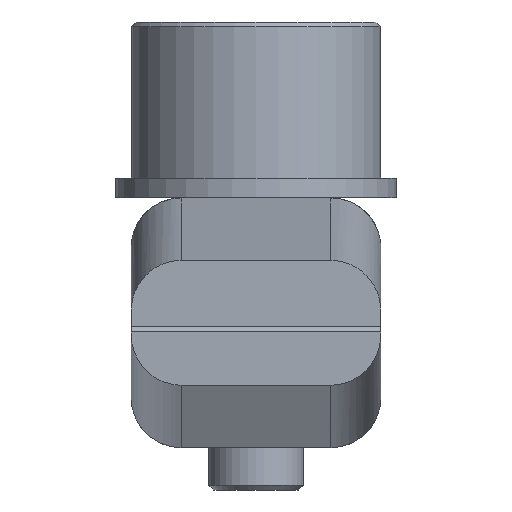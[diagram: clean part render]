
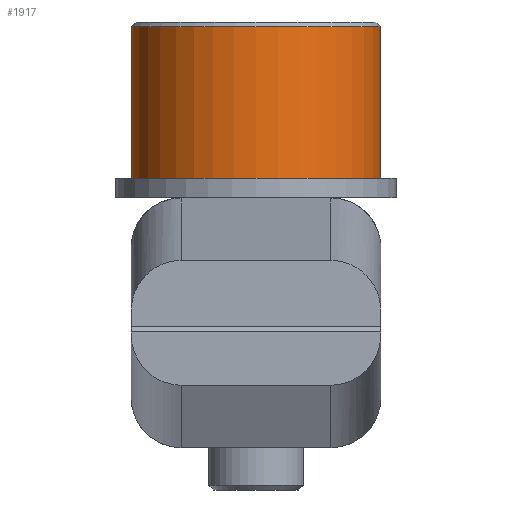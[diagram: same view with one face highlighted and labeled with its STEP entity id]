
A CAD part, front view. The second image highlights one B-rep face of the part: STEP entity #1917.
In plain terms, the highlighted cylindrical face has radius 6.35 mm (diameter 12.7 mm), a full revolution.
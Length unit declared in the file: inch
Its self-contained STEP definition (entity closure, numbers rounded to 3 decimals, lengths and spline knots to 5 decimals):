
#171=FACE_OUTER_BOUND('',#281,.T.);
#281=EDGE_LOOP('',(#1582,#1583,#1584,#1585));
#359=CIRCLE('',#2053,0.25);
#360=CIRCLE('',#2054,0.25);
#494=LINE('',#2973,#720);
#720=VECTOR('',#2409,0.25);
#930=VERTEX_POINT('',#2970);
#931=VERTEX_POINT('',#2972);
#1161=EDGE_CURVE('',#930,#930,#359,.T.);
#1162=EDGE_CURVE('',#930,#931,#494,.T.);
#1163=EDGE_CURVE('',#931,#931,#360,.T.);
#1582=ORIENTED_EDGE('',*,*,#1161,.F.);
#1583=ORIENTED_EDGE('',*,*,#1162,.T.);
#1584=ORIENTED_EDGE('',*,*,#1163,.F.);
#1585=ORIENTED_EDGE('',*,*,#1162,.F.);
#1852=CYLINDRICAL_SURFACE('',#2052,0.25);
#1917=ADVANCED_FACE('',(#171),#1852,.T.);
#2052=AXIS2_PLACEMENT_3D('',#2969,#2405,#2406);
#2053=AXIS2_PLACEMENT_3D('',#2971,#2407,#2408);
#2054=AXIS2_PLACEMENT_3D('',#2974,#2410,#2411);
#2405=DIRECTION('center_axis',(0.,0.,
-1.));
#2406=DIRECTION('ref_axis',(0.,1.,0.));
#2407=DIRECTION('center_axis',(0.,0.,
-1.));
#2408=DIRECTION('ref_axis',(0.,1.,0.));
#2409=DIRECTION('',(0.,0.,1.));
#2410=DIRECTION('center_axis',(0.,0.,
1.));
#2411=DIRECTION('ref_axis',(0.,1.,0.));
#2969=CARTESIAN_POINT('Origin',(5.6623,37.55402,7.20093));
#2970=CARTESIAN_POINT('',(5.6623,37.30402,7.14905));
#2971=CARTESIAN_POINT('Origin',(5.6623,37.55402,7.14905));
#2972=CARTESIAN_POINT('',(5.6623,37.30402,7.45155));
#2973=CARTESIAN_POINT('',(5.6623,37.30402,7.20093));
#2974=CARTESIAN_POINT('Origin',(5.6623,37.55402,7.45155));
